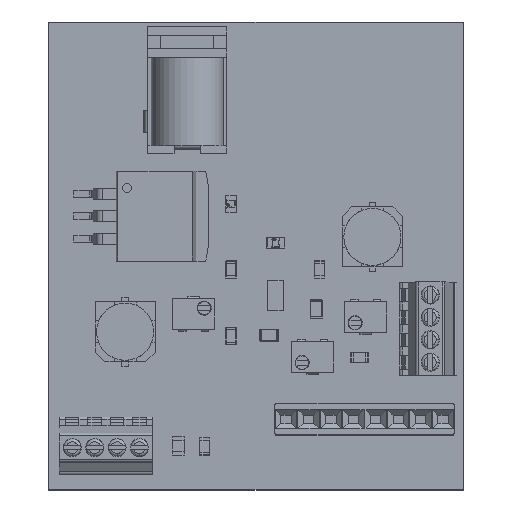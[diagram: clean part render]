
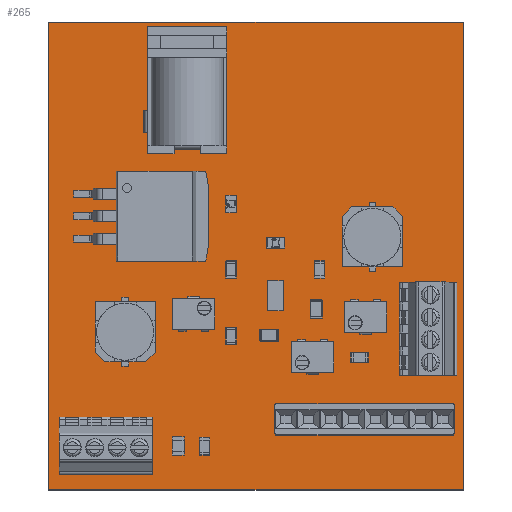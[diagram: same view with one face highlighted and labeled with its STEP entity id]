
A CAD part, top view. The second image highlights one B-rep face of the part: STEP entity #265.
In plain terms, the highlighted planar face has unit normal (0, 0, 1).
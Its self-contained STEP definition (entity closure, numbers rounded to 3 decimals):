
#136 = VERTEX_POINT('',#137);
#137 = CARTESIAN_POINT('',(0.,0.,1.6));
#143 = EDGE_CURVE('',#136,#144,#146,.T.);
#144 = VERTEX_POINT('',#145);
#145 = CARTESIAN_POINT('',(47.,0.,1.6));
#146 = LINE('',#147,#148);
#147 = CARTESIAN_POINT('',(0.,0.,1.6));
#148 = VECTOR('',#149,1.);
#149 = DIRECTION('',(1.,0.,0.));
#174 = EDGE_CURVE('',#144,#175,#177,.T.);
#175 = VERTEX_POINT('',#176);
#176 = CARTESIAN_POINT('',(47.,53.,1.6));
#177 = LINE('',#178,#179);
#178 = CARTESIAN_POINT('',(47.,0.,1.6));
#179 = VECTOR('',#180,1.);
#180 = DIRECTION('',(0.,1.,0.));
#205 = EDGE_CURVE('',#175,#206,#208,.T.);
#206 = VERTEX_POINT('',#207);
#207 = CARTESIAN_POINT('',(0.,53.,1.6));
#208 = LINE('',#209,#210);
#209 = CARTESIAN_POINT('',(47.,53.,1.6));
#210 = VECTOR('',#211,1.);
#211 = DIRECTION('',(-1.,0.,0.));
#236 = EDGE_CURVE('',#206,#136,#237,.T.);
#237 = LINE('',#238,#239);
#238 = CARTESIAN_POINT('',(0.,53.,1.6));
#239 = VECTOR('',#240,1.);
#240 = DIRECTION('',(0.,-1.,0.));
#265 = ADVANCED_FACE('',(#266),#272,.T.);
#266 = FACE_BOUND('',#267,.T.);
#267 = EDGE_LOOP('',(#268,#269,#270,#271));
#268 = ORIENTED_EDGE('',*,*,#143,.T.);
#269 = ORIENTED_EDGE('',*,*,#174,.T.);
#270 = ORIENTED_EDGE('',*,*,#205,.T.);
#271 = ORIENTED_EDGE('',*,*,#236,.T.);
#272 = PLANE('',#273);
#273 = AXIS2_PLACEMENT_3D('',#274,#275,#276);
#274 = CARTESIAN_POINT('',(23.5,26.5,1.6));
#275 = DIRECTION('',(0.,0.,1.));
#276 = DIRECTION('',(1.,0.,-0.));
